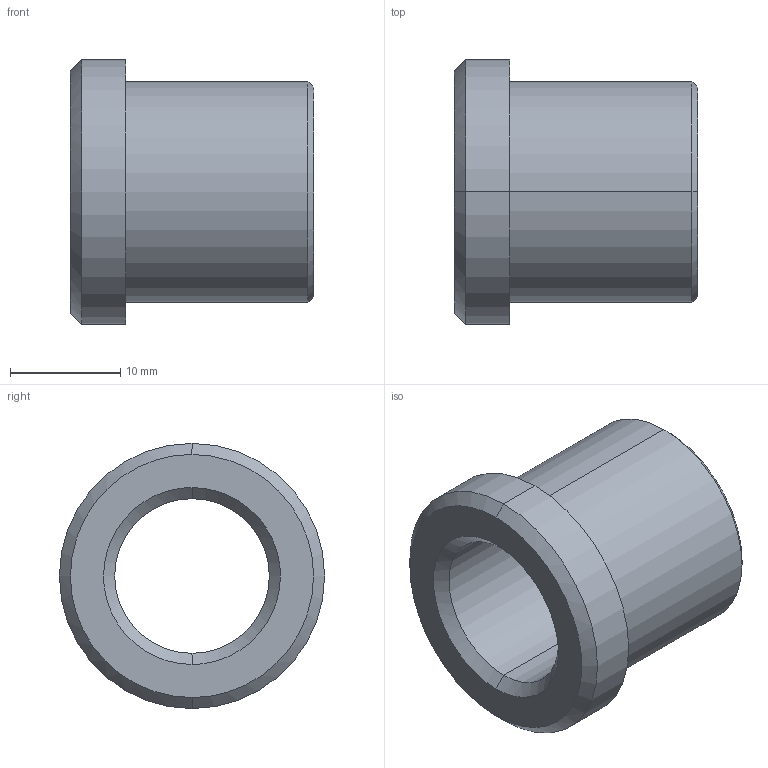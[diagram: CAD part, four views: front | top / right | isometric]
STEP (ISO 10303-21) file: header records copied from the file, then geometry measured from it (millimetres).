
FILE_DESCRIPTION(('CATIA V5 STEP Exchange'),'2;1');
FILE_NAME('C:\Users\Utente\Desktop\IO LAVORO\3D X SITO CF\X SITO\PLASTICA\353\353-14X22.stp','2021-04-21T12:19:02+00:00',('none'),('none'),'CATIA Version 5 Release 20 GA (IN-10)','CATIA V5 STEP AP203','none');
FILE_SCHEMA(('CONFIG_CONTROL_DESIGN'));
Length unit declared in the file: millimetre
Products named in the file (1): 353-14X22
Bounding box: 22 x 24 x 24 mm (x, y, z)
Volume: 4138.9 mm3; surface area: 2902.6 mm2
Topology: 1 solids, 1 shells, 17 faces, 54 edges, 40 vertices
Faces by surface type: cone 6, cylinder 6, plane 3, torus 2
Entity records: 746 total; most frequent: CARTESIAN_POINT 224, ORIENTED_EDGE 108, DIRECTION 80, EDGE_CURVE 54, AXIS2_PLACEMENT_3D 52, VERTEX_POINT 40, CIRCLE 34, EDGE_LOOP 20
